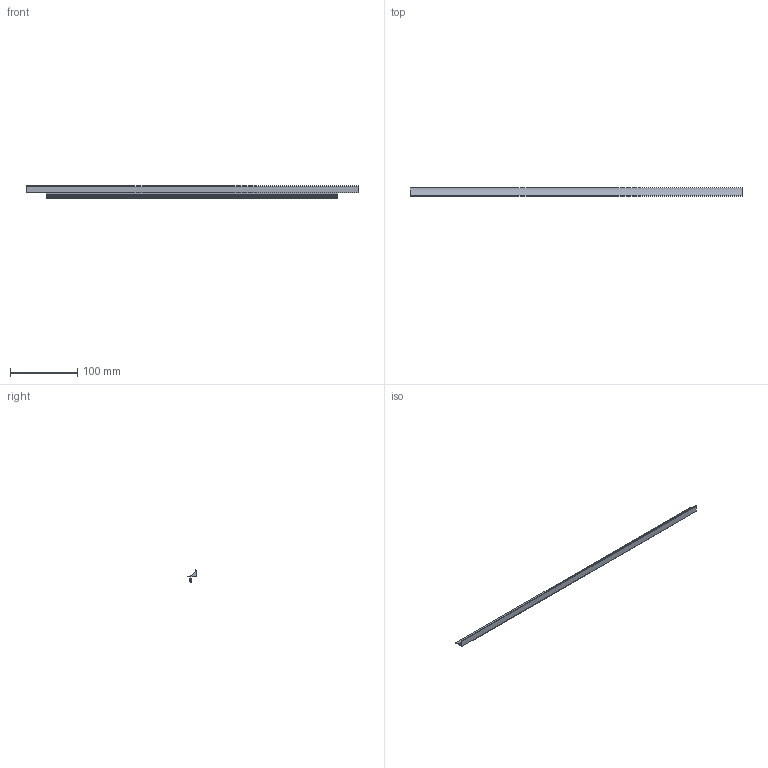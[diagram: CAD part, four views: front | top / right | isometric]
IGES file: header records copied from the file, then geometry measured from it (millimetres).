
Start section: Data from Parasolid IGES Translator 20.0.26, Copyright(c) 2006 Siemens P LM Software. All Rights Reserved.
Global section: file name: 9208092.igs; native system: By Siemens PLM Incorporated; preprocessor: XPlus GENERIC/IGES 20.0.26; author: Noname; organization: Noname; date: 20230313.143300; units: millimetre
Bounding box: 495 x 12.5 x 18 mm (x, y, z)
Surface area: 28465.3 mm2 (no closed solid volume)
Topology: 0 solids, 0 shells, 29 faces, 156 edges, 156 vertices
Faces by surface type: extrusion 25, revolution 4
